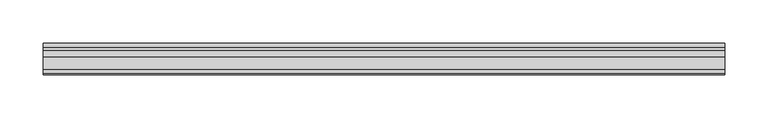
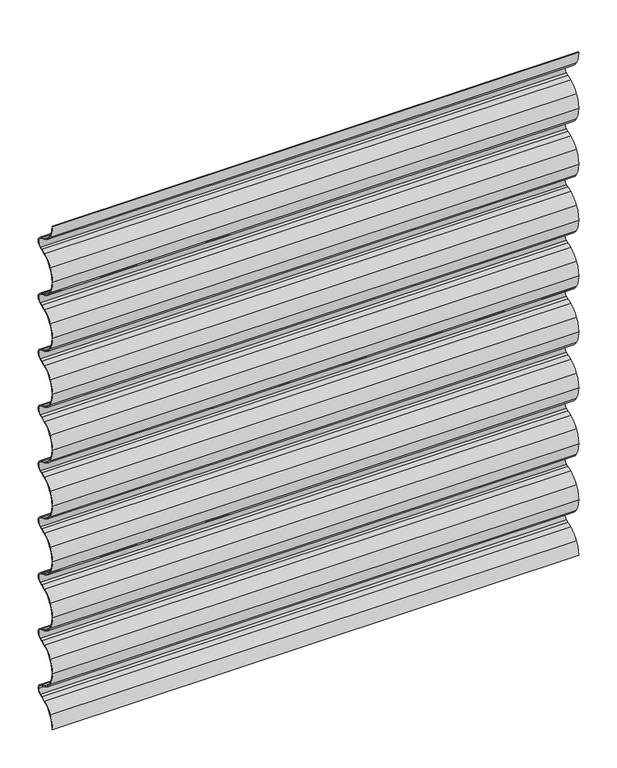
"""IFC4 building model written with IfcOpenShell, lengths in millimetres: plate geometry, Regolare Horizontal 801 : Regolare Horizontal 801."""

from ifc_helpers import new_model, si_unit, point, frame, frame_2d, origin, place, context, project, spatial, polyline, circle_curve, trimmed, segment, composite_curve, outline, extrude, source, transform, mapped, element, save


def plate_b97943db(model_context):
    return source(origin(), model_context, "Body", "SweptSolid", [
        extrude(outline(composite_curve([segment(trimmed(circle_curve(frame_2d((38.4503244, 0.0)), 37.4503244), [point((6.5021495, 19.5407501))], [point((1.0, 0.0))], True, "CARTESIAN"), True, "CONTINUOUS"), segment(polyline([(1.0, 0.0), (0.0, 0.0)]), True, "CONTINUOUS"), segment(trimmed(circle_curve(frame_2d((38.4503244, 0.0)), 38.4503244), [point((0.0, 0.0))], [point((5.6490681, 20.062528))], False, "CARTESIAN"), True, "CONTINUOUS"), segment(trimmed(circle_curve(frame_2d((32.6206681, 3.5656452)), 31.6166783), [point((5.6490681, 20.062528))], [point((20.878867, 32.9211295))], False, "CARTESIAN"), True, "CONTINUOUS"), segment(polyline([(20.878867, 32.9211295), (28.0423924, 35.7903512), (31.4771017, 37.4367049)]), True, "CONTINUOUS"), segment(trimmed(circle_curve(frame_2d((28.0791236, 44.5257445)), 7.8613445), [point((31.4771017, 37.4367049))], [point((35.9404682, 44.5257445))], True, "CARTESIAN"), True, "CONTINUOUS"), segment(trimmed(circle_curve(frame_2d((28.0791236, 44.5257445)), 7.8613445), [point((35.9404682, 44.5257445))], [point((31.4771017, 51.6147842))], True, "CARTESIAN"), True, "CONTINUOUS"), segment(polyline([(31.4771017, 51.6147842), (28.0423924, 53.2611379), (20.878867, 56.1303596)]), True, "CONTINUOUS"), segment(trimmed(circle_curve(frame_2d((32.6206681, 85.4858438)), 31.6166783), [point((20.878867, 56.1303596))], [point((5.6490681, 68.9889611))], False, "CARTESIAN"), True, "CONTINUOUS"), segment(trimmed(circle_curve(frame_2d((38.4503244, 89.0514891)), 38.4503244), [point((5.6490681, 68.9889611))], [point((0.0, 89.0514891))], False, "CARTESIAN"), True, "CONTINUOUS"), segment(trimmed(circle_curve(frame_2d((38.4503244, 89.0514891)), 38.4503244), [point((0.0, 89.0514891))], [point((5.6490681, 109.1140171))], False, "CARTESIAN"), True, "CONTINUOUS"), segment(trimmed(circle_curve(frame_2d((32.6206681, 92.6171343)), 31.6166783), [point((5.6490681, 109.1140171))], [point((20.878867, 121.9726185))], False, "CARTESIAN"), True, "CONTINUOUS"), segment(polyline([(20.878867, 121.9726185), (28.0423924, 124.8418403), (31.4771017, 126.488194)]), True, "CONTINUOUS"), segment(trimmed(circle_curve(frame_2d((28.0791236, 133.5772336)), 7.8613445), [point((31.4771017, 126.488194))], [point((31.4771017, 140.6662733))], True, "CARTESIAN"), True, "CONTINUOUS"), segment(polyline([(31.4771017, 140.6662733), (28.0423924, 142.312627), (20.878867, 145.1818487)]), True, "CONTINUOUS"), segment(trimmed(circle_curve(frame_2d((32.6206681, 174.5373329)), 31.6166783), [point((20.878867, 145.1818487))], [point((5.6490681, 158.0404502))], False, "CARTESIAN"), True, "CONTINUOUS"), segment(trimmed(circle_curve(frame_2d((38.4503244, 178.1029782)), 38.4503244), [point((5.6490681, 158.0404502))], [point((0.0, 178.1029782))], False, "CARTESIAN"), True, "CONTINUOUS"), segment(trimmed(circle_curve(frame_2d((38.4503244, 178.1029782)), 38.4503244), [point((0.0, 178.1029782))], [point((5.6490681, 198.1655062))], False, "CARTESIAN"), True, "CONTINUOUS"), segment(trimmed(circle_curve(frame_2d((32.6206681, 181.6686234)), 31.6166783), [point((5.6490681, 198.1655062))], [point((20.878867, 211.0241076))], False, "CARTESIAN"), True, "CONTINUOUS"), segment(polyline([(20.878867, 211.0241076), (28.0423924, 213.8933293), (31.4771017, 215.5396831)]), True, "CONTINUOUS"), segment(trimmed(circle_curve(frame_2d((28.0791236, 222.6287227)), 7.8613445), [point((31.4771017, 215.5396831))], [point((31.4771017, 229.7177623))], True, "CARTESIAN"), True, "CONTINUOUS"), segment(polyline([(31.4771017, 229.7177623), (28.0423924, 231.3641161), (20.878867, 234.2333378)]), True, "CONTINUOUS"), segment(trimmed(circle_curve(frame_2d((32.6206681, 263.588822)), 31.6166783), [point((20.878867, 234.2333378))], [point((5.6490681, 247.0919392))], False, "CARTESIAN"), True, "CONTINUOUS"), segment(trimmed(circle_curve(frame_2d((38.4503244, 267.1544672)), 38.4503244), [point((5.6490681, 247.0919392))], [point((0.0, 267.1544672))], False, "CARTESIAN"), True, "CONTINUOUS"), segment(trimmed(circle_curve(frame_2d((38.4503244, 267.1544672)), 38.4503244), [point((0.0, 267.1544672))], [point((5.6490681, 287.2169952))], False, "CARTESIAN"), True, "CONTINUOUS"), segment(trimmed(circle_curve(frame_2d((32.6206681, 270.7201125)), 31.6166783), [point((5.6490681, 287.2169952))], [point((20.878867, 300.0755967))], False, "CARTESIAN"), True, "CONTINUOUS"), segment(polyline([(20.878867, 300.0755967), (28.0423924, 302.9448184), (31.4771017, 304.5911721)]), True, "CONTINUOUS"), segment(trimmed(circle_curve(frame_2d((28.0791236, 311.6802118)), 7.8613445), [point((31.4771017, 304.5911721))], [point((31.4771017, 318.7692514))], True, "CARTESIAN"), True, "CONTINUOUS"), segment(polyline([(31.4771017, 318.7692514), (28.0423924, 320.4156051), (20.878867, 323.2848269)]), True, "CONTINUOUS"), segment(trimmed(circle_curve(frame_2d((32.6206681, 352.6403111)), 31.6166783), [point((20.878867, 323.2848269))], [point((5.6490681, 336.1434283))], False, "CARTESIAN"), True, "CONTINUOUS"), segment(trimmed(circle_curve(frame_2d((38.4503244, 356.2059563)), 38.4503244), [point((5.6490681, 336.1434283))], [point((0.0, 356.2059563))], False, "CARTESIAN"), True, "CONTINUOUS"), segment(trimmed(circle_curve(frame_2d((38.4503244, 356.2059563)), 38.4503244), [point((0.0, 356.2059563))], [point((5.6490681, 376.2684843))], False, "CARTESIAN"), True, "CONTINUOUS"), segment(trimmed(circle_curve(frame_2d((32.6206681, 359.7716016)), 31.6166783), [point((5.6490681, 376.2684843))], [point((20.878867, 389.1270858))], False, "CARTESIAN"), True, "CONTINUOUS"), segment(polyline([(20.878867, 389.1270858), (28.0423924, 391.9963075), (31.4771017, 393.6426612)]), True, "CONTINUOUS"), segment(trimmed(circle_curve(frame_2d((28.0791236, 400.7317009)), 7.8613445), [point((31.4771017, 393.6426612))], [point((31.4771017, 407.8207405))], True, "CARTESIAN"), True, "CONTINUOUS"), segment(polyline([(31.4771017, 407.8207405), (28.0423924, 409.4670942), (20.878867, 412.3363159)]), True, "CONTINUOUS"), segment(trimmed(circle_curve(frame_2d((32.6206681, 441.6918002)), 31.6166783), [point((20.878867, 412.3363159))], [point((5.6490681, 425.1949174))], False, "CARTESIAN"), True, "CONTINUOUS"), segment(trimmed(circle_curve(frame_2d((38.4503244, 445.2574454)), 38.4503244), [point((5.6490681, 425.1949174))], [point((0.0, 445.2574454))], False, "CARTESIAN"), True, "CONTINUOUS"), segment(trimmed(circle_curve(frame_2d((38.4503244, 445.2574454)), 38.4503244), [point((0.0, 445.2574454))], [point((5.6490681, 465.3199734))], False, "CARTESIAN"), True, "CONTINUOUS"), segment(trimmed(circle_curve(frame_2d((32.6206681, 448.8230907)), 31.6166783), [point((5.6490681, 465.3199734))], [point((20.878867, 478.1785749))], False, "CARTESIAN"), True, "CONTINUOUS"), segment(polyline([(20.878867, 478.1785749), (28.0423924, 481.0477966), (31.4771017, 482.6941503)]), True, "CONTINUOUS"), segment(trimmed(circle_curve(frame_2d((28.0791236, 489.7831899)), 7.8613445), [point((31.4771017, 482.6941503))], [point((31.4771017, 496.8722296))], True, "CARTESIAN"), True, "CONTINUOUS"), segment(polyline([(31.4771017, 496.8722296), (28.0423924, 498.5185833), (20.878867, 501.387805)]), True, "CONTINUOUS"), segment(trimmed(circle_curve(frame_2d((32.6206681, 530.7432892)), 31.6166783), [point((20.878867, 501.387805))], [point((5.6490681, 514.2464065))], False, "CARTESIAN"), True, "CONTINUOUS"), segment(trimmed(circle_curve(frame_2d((38.4503244, 534.3089345)), 38.4503244), [point((5.6490681, 514.2464065))], [point((0.0, 534.3089345))], False, "CARTESIAN"), True, "CONTINUOUS"), segment(trimmed(circle_curve(frame_2d((38.4503244, 534.3089345)), 38.4503244), [point((0.0, 534.3089345))], [point((5.6490681, 554.3714625))], False, "CARTESIAN"), True, "CONTINUOUS"), segment(trimmed(circle_curve(frame_2d((32.6206681, 537.8745797)), 31.6166783), [point((5.6490681, 554.3714625))], [point((20.878867, 567.2300639))], False, "CARTESIAN"), True, "CONTINUOUS"), segment(polyline([(20.878867, 567.2300639), (28.0423924, 570.0992857), (31.4771017, 571.7456394)]), True, "CONTINUOUS"), segment(trimmed(circle_curve(frame_2d((28.0791236, 578.834679)), 7.8613445), [point((31.4771017, 571.7456394))], [point((31.4771017, 585.9237187))], True, "CARTESIAN"), True, "CONTINUOUS"), segment(polyline([(31.4771017, 585.9237187), (28.0423924, 587.5700724), (20.878867, 590.4392941)]), True, "CONTINUOUS"), segment(trimmed(circle_curve(frame_2d((32.6206681, 619.7947783)), 31.6166783), [point((20.878867, 590.4392941))], [point((5.6490681, 603.2978956))], False, "CARTESIAN"), True, "CONTINUOUS"), segment(trimmed(circle_curve(frame_2d((38.4503244, 623.3604236)), 38.4503244), [point((5.6490681, 603.2978956))], [point((0.0, 623.3604236))], False, "CARTESIAN"), True, "CONTINUOUS"), segment(trimmed(circle_curve(frame_2d((38.4503244, 623.3604236)), 38.4503244), [point((0.0, 623.3604236))], [point((5.6490681, 643.4229516))], False, "CARTESIAN"), True, "CONTINUOUS"), segment(trimmed(circle_curve(frame_2d((32.6206681, 626.9260688)), 31.6166783), [point((5.6490681, 643.4229516))], [point((20.878867, 656.281553))], False, "CARTESIAN"), True, "CONTINUOUS"), segment(polyline([(20.878867, 656.281553), (28.0423924, 659.1507748), (31.4771017, 660.7971285)]), True, "CONTINUOUS"), segment(trimmed(circle_curve(frame_2d((28.0791236, 667.8861681)), 7.8613445), [point((31.4771017, 660.7971285))], [point((31.4771017, 674.9752077))], True, "CARTESIAN"), True, "CONTINUOUS"), segment(polyline([(31.4771017, 674.9752077), (28.0423924, 676.6215615), (20.878867, 679.4907832)]), True, "CONTINUOUS"), segment(trimmed(circle_curve(frame_2d((32.6206681, 708.8462674)), 31.6166783), [point((20.878867, 679.4907832))], [point((5.6490681, 692.3493846))], False, "CARTESIAN"), True, "CONTINUOUS"), segment(trimmed(circle_curve(frame_2d((38.4503244, 712.4119126)), 38.4503244), [point((5.6490681, 692.3493846))], [point((0.0, 712.4119126))], False, "CARTESIAN"), True, "CONTINUOUS"), segment(trimmed(circle_curve(frame_2d((38.4503244, 712.4119126)), 38.4503244), [point((0.0, 712.4119126))], [point((5.6490681, 732.4744406))], False, "CARTESIAN"), True, "CONTINUOUS"), segment(trimmed(circle_curve(frame_2d((32.6206681, 715.9775579)), 31.6166783), [point((5.6490681, 732.4744406))], [point((20.878867, 745.3330421))], False, "CARTESIAN"), True, "CONTINUOUS"), segment(polyline([(20.878867, 745.3330421), (28.0423924, 748.2022638), (31.4771017, 749.8486175)]), True, "CONTINUOUS"), segment(trimmed(circle_curve(frame_2d((28.0791236, 756.9376572)), 7.8613445), [point((31.4771017, 749.8486175))], [point((31.4771017, 764.0266968))], True, "CARTESIAN"), True, "CONTINUOUS"), segment(polyline([(31.4771017, 764.0266968), (28.0423924, 765.6730505), (20.878867, 768.5422723)]), True, "CONTINUOUS"), segment(trimmed(circle_curve(frame_2d((32.6206681, 797.8977565)), 31.6166783), [point((20.878867, 768.5422723))], [point((5.6490681, 781.4008737))], False, "CARTESIAN"), True, "CONTINUOUS"), segment(trimmed(circle_curve(frame_2d((38.4503244, 801.4634017)), 38.4503244), [point((5.6490681, 781.4008737))], [point((0.0, 801.4634017))], False, "CARTESIAN"), True, "CONTINUOUS"), segment(polyline([(0.0, 801.4634017), (1.0, 801.4634017)]), True, "CONTINUOUS"), segment(trimmed(circle_curve(frame_2d((38.4503244, 801.4634017)), 37.4503244), [point((1.0, 801.4634017))], [point((6.5021495, 781.9226516))], True, "CARTESIAN"), True, "CONTINUOUS"), segment(trimmed(circle_curve(frame_2d((32.6206681, 797.8977565)), 30.6166783), [point((6.5021495, 781.9226516))], [point((21.2504634, 769.4706666))], True, "CARTESIAN"), True, "CONTINUOUS"), segment(polyline([(21.2504634, 769.4706666), (28.4448583, 766.5890807), (31.9093405, 764.928456)]), True, "CONTINUOUS"), segment(trimmed(circle_curve(frame_2d((28.0791236, 756.9376572)), 8.8613445), [point((31.9093405, 764.928456))], [point((31.9093405, 748.9468584))], False, "CARTESIAN"), True, "CONTINUOUS"), segment(polyline([(31.9093405, 748.9468584), (28.4448583, 747.2862336), (21.2504634, 744.4046477)]), True, "CONTINUOUS"), segment(trimmed(circle_curve(frame_2d((32.6206681, 715.9775579)), 30.6166783), [point((21.2504634, 744.4046477))], [point((6.5021495, 731.9526628))], True, "CARTESIAN"), True, "CONTINUOUS"), segment(trimmed(circle_curve(frame_2d((38.4503244, 712.4119126)), 37.4503244), [point((6.5021495, 731.9526628))], [point((1.0, 712.4119126))], True, "CARTESIAN"), True, "CONTINUOUS"), segment(trimmed(circle_curve(frame_2d((38.4503244, 712.4119126)), 37.4503244), [point((1.0, 712.4119126))], [point((6.5021495, 692.8711625))], True, "CARTESIAN"), True, "CONTINUOUS"), segment(trimmed(circle_curve(frame_2d((32.6206681, 708.8462674)), 30.6166783), [point((6.5021495, 692.8711625))], [point((21.2504634, 680.4191776))], True, "CARTESIAN"), True, "CONTINUOUS"), segment(polyline([(21.2504634, 680.4191776), (28.4448583, 677.5375917), (31.9093405, 675.8769669)]), True, "CONTINUOUS"), segment(trimmed(circle_curve(frame_2d((28.0791236, 667.8861681)), 8.8613445), [point((31.9093405, 675.8769669))], [point((31.9093405, 659.8953693))], False, "CARTESIAN"), True, "CONTINUOUS"), segment(polyline([(31.9093405, 659.8953693), (28.4448583, 658.2347446), (21.2504634, 655.3531587)]), True, "CONTINUOUS"), segment(trimmed(circle_curve(frame_2d((32.6206681, 626.9260688)), 30.6166783), [point((21.2504634, 655.3531587))], [point((6.5021495, 642.9011737))], True, "CARTESIAN"), True, "CONTINUOUS"), segment(trimmed(circle_curve(frame_2d((38.4503244, 623.3604236)), 37.4503244), [point((6.5021495, 642.9011737))], [point((1.0, 623.3604236))], True, "CARTESIAN"), True, "CONTINUOUS"), segment(trimmed(circle_curve(frame_2d((38.4503244, 623.3604236)), 37.4503244), [point((1.0, 623.3604236))], [point((6.5021495, 603.8196734))], True, "CARTESIAN"), True, "CONTINUOUS"), segment(trimmed(circle_curve(frame_2d((32.6206681, 619.7947783)), 30.6166783), [point((6.5021495, 603.8196734))], [point((21.2504634, 591.3676885))], True, "CARTESIAN"), True, "CONTINUOUS"), segment(polyline([(21.2504634, 591.3676885), (28.4448583, 588.4861026), (31.9093405, 586.8254778)]), True, "CONTINUOUS"), segment(trimmed(circle_curve(frame_2d((28.0791236, 578.834679)), 8.8613445), [point((31.9093405, 586.8254778))], [point((31.9093405, 570.8438802))], False, "CARTESIAN"), True, "CONTINUOUS"), segment(polyline([(31.9093405, 570.8438802), (28.4448583, 569.1832555), (21.2504634, 566.3016696)]), True, "CONTINUOUS"), segment(trimmed(circle_curve(frame_2d((32.6206681, 537.8745797)), 30.6166783), [point((21.2504634, 566.3016696))], [point((6.5021495, 553.8496846))], True, "CARTESIAN"), True, "CONTINUOUS"), segment(trimmed(circle_curve(frame_2d((38.4503244, 534.3089345)), 37.4503244), [point((6.5021495, 553.8496846))], [point((1.0, 534.3089345))], True, "CARTESIAN"), True, "CONTINUOUS"), segment(trimmed(circle_curve(frame_2d((38.4503244, 534.3089345)), 37.4503244), [point((1.0, 534.3089345))], [point((6.5021495, 514.7681843))], True, "CARTESIAN"), True, "CONTINUOUS"), segment(trimmed(circle_curve(frame_2d((32.6206681, 530.7432892)), 30.6166783), [point((6.5021495, 514.7681843))], [point((21.2504634, 502.3161994))], True, "CARTESIAN"), True, "CONTINUOUS"), segment(polyline([(21.2504634, 502.3161994), (28.4448583, 499.4346135), (31.9093405, 497.7739888)]), True, "CONTINUOUS"), segment(trimmed(circle_curve(frame_2d((28.0791236, 489.7831899)), 8.8613445), [point((31.9093405, 497.7739888))], [point((31.9093405, 481.7923911))], False, "CARTESIAN"), True, "CONTINUOUS"), segment(polyline([(31.9093405, 481.7923911), (28.4448583, 480.1317664), (21.2504634, 477.2501805)]), True, "CONTINUOUS"), segment(trimmed(circle_curve(frame_2d((32.6206681, 448.8230907)), 30.6166783), [point((21.2504634, 477.2501805))], [point((6.5021495, 464.7981955))], True, "CARTESIAN"), True, "CONTINUOUS"), segment(trimmed(circle_curve(frame_2d((38.4503244, 445.2574454)), 37.4503244), [point((6.5021495, 464.7981955))], [point((1.0, 445.2574454))], True, "CARTESIAN"), True, "CONTINUOUS"), segment(trimmed(circle_curve(frame_2d((38.4503244, 445.2574454)), 37.4503244), [point((1.0, 445.2574454))], [point((6.5021495, 425.7166953))], True, "CARTESIAN"), True, "CONTINUOUS"), segment(trimmed(circle_curve(frame_2d((32.6206681, 441.6918002)), 30.6166783), [point((6.5021495, 425.7166953))], [point((21.2504634, 413.2647103))], True, "CARTESIAN"), True, "CONTINUOUS"), segment(polyline([(21.2504634, 413.2647103), (28.4448583, 410.3831244), (31.9093405, 408.7224997)]), True, "CONTINUOUS"), segment(trimmed(circle_curve(frame_2d((28.0791236, 400.7317009)), 8.8613445), [point((31.9093405, 408.7224997))], [point((31.9093405, 392.740902))], False, "CARTESIAN"), True, "CONTINUOUS"), segment(polyline([(31.9093405, 392.740902), (28.4448583, 391.0802773), (21.2504634, 388.1986914)]), True, "CONTINUOUS"), segment(trimmed(circle_curve(frame_2d((32.6206681, 359.7716016)), 30.6166783), [point((21.2504634, 388.1986914))], [point((6.5021495, 375.7467065))], True, "CARTESIAN"), True, "CONTINUOUS"), segment(trimmed(circle_curve(frame_2d((38.4503244, 356.2059563)), 37.4503244), [point((6.5021495, 375.7467065))], [point((1.0, 356.2059563))], True, "CARTESIAN"), True, "CONTINUOUS"), segment(trimmed(circle_curve(frame_2d((38.4503244, 356.2059563)), 37.4503244), [point((1.0, 356.2059563))], [point((6.5021495, 336.6652062))], True, "CARTESIAN"), True, "CONTINUOUS"), segment(trimmed(circle_curve(frame_2d((32.6206681, 352.6403111)), 30.6166783), [point((6.5021495, 336.6652062))], [point((21.2504634, 324.2132212))], True, "CARTESIAN"), True, "CONTINUOUS"), segment(polyline([(21.2504634, 324.2132212), (28.4448583, 321.3316353), (31.9093405, 319.6710106)]), True, "CONTINUOUS"), segment(trimmed(circle_curve(frame_2d((28.0791236, 311.6802118)), 8.8613445), [point((31.9093405, 319.6710106))], [point((31.9093405, 303.689413))], False, "CARTESIAN"), True, "CONTINUOUS"), segment(polyline([(31.9093405, 303.689413), (28.4448583, 302.0287882), (21.2504634, 299.1472023)]), True, "CONTINUOUS"), segment(trimmed(circle_curve(frame_2d((32.6206681, 270.7201125)), 30.6166783), [point((21.2504634, 299.1472023))], [point((6.5021495, 286.6952174))], True, "CARTESIAN"), True, "CONTINUOUS"), segment(trimmed(circle_curve(frame_2d((38.4503244, 267.1544672)), 37.4503244), [point((6.5021495, 286.6952174))], [point((1.0, 267.1544672))], True, "CARTESIAN"), True, "CONTINUOUS"), segment(trimmed(circle_curve(frame_2d((38.4503244, 267.1544672)), 37.4503244), [point((1.0, 267.1544672))], [point((6.5021495, 247.6137171))], True, "CARTESIAN"), True, "CONTINUOUS"), segment(trimmed(circle_curve(frame_2d((32.6206681, 263.588822)), 30.6166783), [point((6.5021495, 247.6137171))], [point((21.2504634, 235.1617322))], True, "CARTESIAN"), True, "CONTINUOUS"), segment(polyline([(21.2504634, 235.1617322), (28.4448583, 232.2801463), (31.9093405, 230.6195215)]), True, "CONTINUOUS"), segment(trimmed(circle_curve(frame_2d((28.0791236, 222.6287227)), 8.8613445), [point((31.9093405, 230.6195215))], [point((31.9093405, 214.6379239))], False, "CARTESIAN"), True, "CONTINUOUS"), segment(polyline([(31.9093405, 214.6379239), (28.4448583, 212.9772992), (21.2504634, 210.0957133)]), True, "CONTINUOUS"), segment(trimmed(circle_curve(frame_2d((32.6206681, 181.6686234)), 30.6166783), [point((21.2504634, 210.0957133))], [point((6.5021495, 197.6437283))], True, "CARTESIAN"), True, "CONTINUOUS"), segment(trimmed(circle_curve(frame_2d((38.4503244, 178.1029782)), 37.4503244), [point((6.5021495, 197.6437283))], [point((1.0, 178.1029782))], True, "CARTESIAN"), True, "CONTINUOUS"), segment(trimmed(circle_curve(frame_2d((38.4503244, 178.1029782)), 37.4503244), [point((1.0, 178.1029782))], [point((6.5021495, 158.562228))], True, "CARTESIAN"), True, "CONTINUOUS"), segment(trimmed(circle_curve(frame_2d((32.6206681, 174.5373329)), 30.6166783), [point((6.5021495, 158.562228))], [point((21.2504634, 146.1102431))], True, "CARTESIAN"), True, "CONTINUOUS"), segment(polyline([(21.2504634, 146.1102431), (28.4448583, 143.2286572), (31.9093405, 141.5680324)]), True, "CONTINUOUS"), segment(trimmed(circle_curve(frame_2d((28.0791236, 133.5772336)), 8.8613445), [point((31.9093405, 141.5680324))], [point((31.9093405, 125.5864348))], False, "CARTESIAN"), True, "CONTINUOUS"), segment(polyline([(31.9093405, 125.5864348), (28.4448583, 123.9258101), (21.2504634, 121.0442242)]), True, "CONTINUOUS"), segment(trimmed(circle_curve(frame_2d((32.6206681, 92.6171343)), 30.6166783), [point((21.2504634, 121.0442242))], [point((6.5021495, 108.5922392))], True, "CARTESIAN"), True, "CONTINUOUS"), segment(trimmed(circle_curve(frame_2d((38.4503244, 89.0514891)), 37.4503244), [point((6.5021495, 108.5922392))], [point((1.0, 89.0514891))], True, "CARTESIAN"), True, "CONTINUOUS"), segment(trimmed(circle_curve(frame_2d((38.4503244, 89.0514891)), 37.4503244), [point((1.0, 89.0514891))], [point((6.5021495, 69.5107389))], True, "CARTESIAN"), True, "CONTINUOUS"), segment(trimmed(circle_curve(frame_2d((32.6206681, 85.4858438)), 30.6166783), [point((6.5021495, 69.5107389))], [point((21.2504634, 57.058754))], True, "CARTESIAN"), True, "CONTINUOUS"), segment(polyline([(21.2504634, 57.058754), (28.4448583, 54.1771681), (31.9093405, 52.5165434)]), True, "CONTINUOUS"), segment(trimmed(circle_curve(frame_2d((28.0791236, 44.5257445)), 8.8613445), [point((31.9093405, 52.5165434))], [point((36.9404682, 44.5257445))], False, "CARTESIAN"), True, "CONTINUOUS"), segment(trimmed(circle_curve(frame_2d((28.0791236, 44.5257445)), 8.8613445), [point((36.9404682, 44.5257445))], [point((31.9093405, 36.5349457))], False, "CARTESIAN"), True, "CONTINUOUS"), segment(polyline([(31.9093405, 36.5349457), (28.4448583, 34.874321), (21.2504634, 31.9927351)]), True, "CONTINUOUS"), segment(trimmed(circle_curve(frame_2d((32.6206681, 3.5656452)), 30.6166783), [point((21.2504634, 31.9927351))], [point((6.5021495, 19.5407501))], True, "CARTESIAN"), True, "CONTINUOUS")], self_intersect=False)), frame((-396.3345414, 0.0, 0.0), z_axis=(1.0, 0.0, 0.0), x_axis=(0.0, 1.0, 0.0)), (0.0, 0.0, 1.0), 792.6690827),
    ])


if __name__ == "__main__":
    model = new_model("IFC4")
    model_context = context("Model", 3, world=origin())
    ifc_project = project(units=[si_unit("LENGTHUNIT", "METRE", prefix="MILLI")], contexts=[model_context])
    site = spatial("IfcSite", under=ifc_project)
    building = spatial("IfcBuilding", under=site)
    placement = place(None, origin())
    plate_shape = plate_b97943db(model_context)
    element("IfcPlate", 1, ObjectType="Regolare Horizontal 801 : Regolare Horizontal 801", at=placement, inside=building, context=model_context, shape_type="MappedRepresentation", body=[
        mapped(plate_shape, transform((0.0, 0.0, 0.0), x_axis=(1.0, 0.0, 0.0), y_axis=(0.0, 1.0, 0.0), z_axis=(0.0, 0.0, 1.0))),
    ])
    save(model, "model.ifc")
